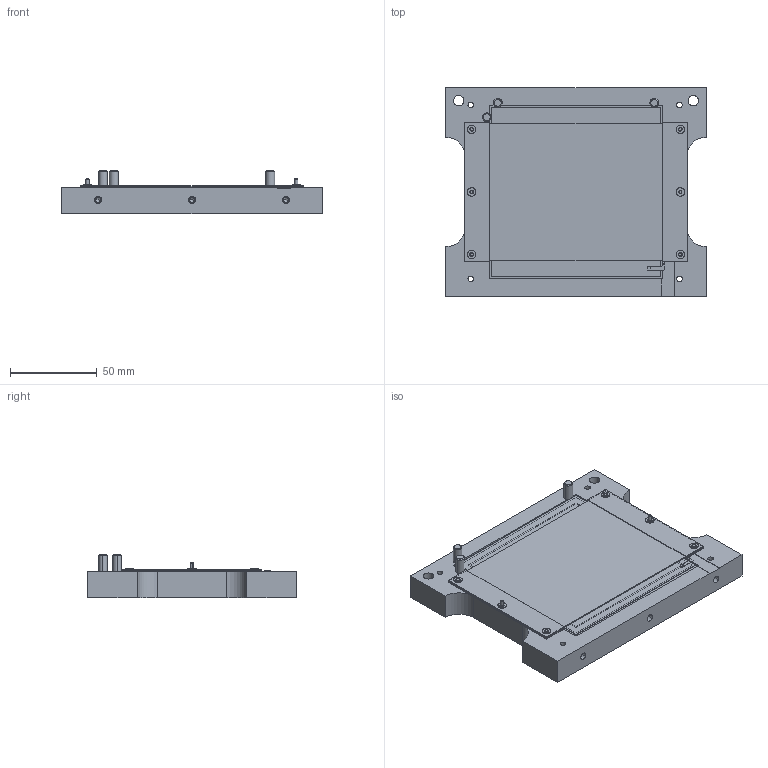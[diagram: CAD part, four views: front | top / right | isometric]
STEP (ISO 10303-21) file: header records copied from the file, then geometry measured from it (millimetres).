
FILE_DESCRIPTION(('CATIA V5 STEP Exchange'),'2;1');
FILE_NAME('D:\CATIA\ATLAS\Atlas_Maarten\atlas_upgrade_maarten\Ass.Module\STP\Outil_2_Phase1.stp','2010-09-02T14:30:25+00:00',('none'),('none'),'CATIA Version 5 Release 18 SP 4 (IN-10)','CATIA V5 STEP AP203','none');
FILE_SCHEMA(('CONFIG_CONTROL_DESIGN'));
Length unit declared in the file: millimetre
Products named in the file (3): Outil_2_Phase1; Detecteur_HV; Base-Board-Assemble
Assembly tree (25 placements, depth 3):
  Outil_2_Phase1
    #56
    #3740  x3
    #3966  x4
    Detecteur_HV
      #4211
      #4909
    Base-Board-Assemble
      #5666  x4
      #6075
      #6640
      #7108  x4
      #7612
    #8247  x2
Bounding box: 150 x 120 x 25 mm (x, y, z)
Volume: 258469.7 mm3; surface area: 97872.8 mm2
Topology: 23 solids, 23 shells, 416 faces, 974 edges, 609 vertices
Faces by surface type: cylinder 163, plane 157, cone 72, torus 24
Entity records: 8413 total; most frequent: CARTESIAN_POINT 1561, ORIENTED_EDGE 1384, DIRECTION 1205, EDGE_CURVE 692, AXIS2_PLACEMENT_3D 536, VERTEX_POINT 441, VECTOR 407, LINE 407
